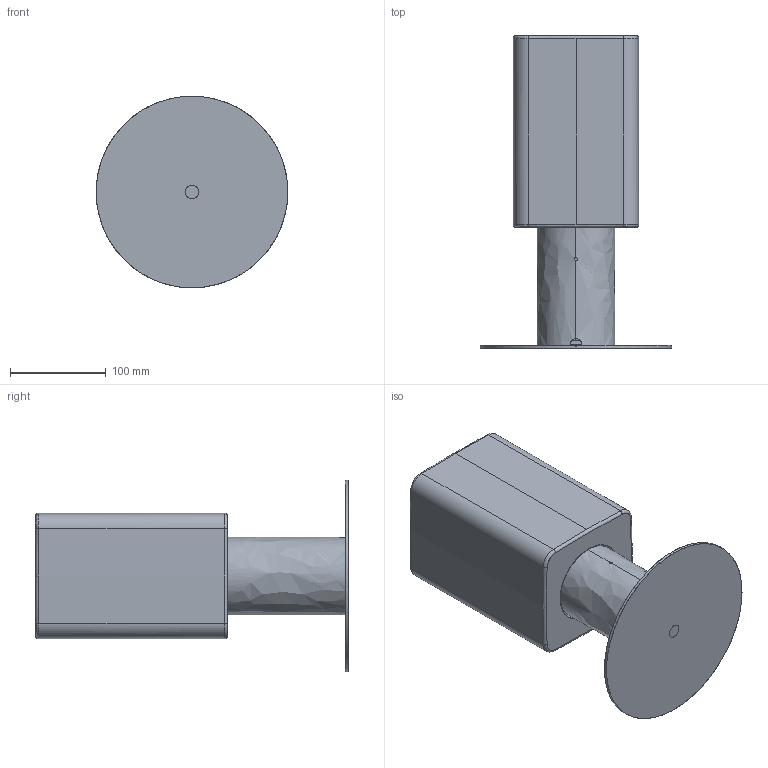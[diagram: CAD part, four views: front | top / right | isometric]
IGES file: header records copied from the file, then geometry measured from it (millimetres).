
Start section: SolidWorks IGES file using analytic representation for surfaces SolidWorks IGES file using analytic representation for surfaces
Global section: file name: /Users/davidfdomoreno/Desktop/Tiny 2375.igs; preprocessor: Trout Lake IGES 012 Jan 17 2017; date: 190423.141330; units: micron
Bounding box: 200 x 326 x 200 mm (x, y, z)
Surface area: 450422.8 mm2 (no closed solid volume)
Topology: 0 solids, 0 shells, 110 faces, 1576 edges, 1576 vertices
Faces by surface type: bspline 110
